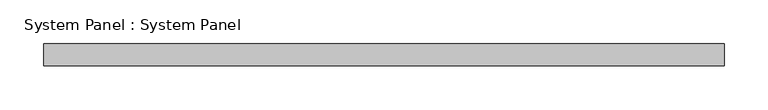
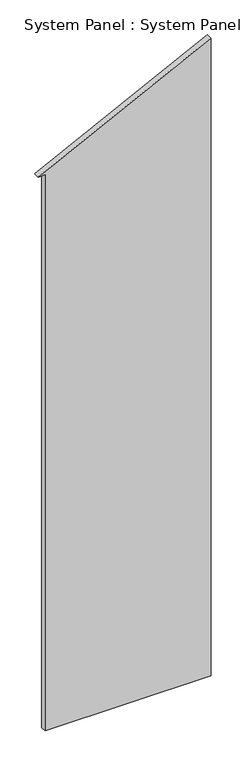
"""IFC4 building model written with IfcOpenShell, lengths in millimetres: plate geometry, System Panel : System Panel."""

import ifcopenshell
import ifcopenshell.guid

model = None  # the IFC model being written
_history = None  # IfcOwnerHistory: only IFC2X3 demands one
_inside = {}  # id of a spatial element -> (the spatial element, [elements in it])
_under = {}  # id of a project, library or spatial element -> (it, [spatial elements below it])
_declared = {}  # id of a project -> (the project, [libraries it declares])
_typed = {}  # id of a type object -> (the type object, [elements of that type])
_made_of = {}  # id of a material, layer set ... -> (it, [elements and type objects made of it])


def new_model(schema):
    """Start an empty IFC model of exactly this schema.

    Asked for "IFC4X3", IfcOpenShell would pick the latest addendum, in which some entities
    have other attributes; the version numbers below select the first issue.
    IFC2X3 requires an IfcOwnerHistory on every rooted entity: one is made here for all.
    """
    global model, _history
    if schema == "IFC4X3":
        model = ifcopenshell.file(schema_version=(4, 3, 0, 0))
    else:
        model = ifcopenshell.file(schema=schema)
    _inside.clear()
    _under.clear()
    _declared.clear()
    _typed.clear()
    _made_of.clear()
    _history = None
    if model.schema == "IFC2X3":
        org = make("IfcOrganization", Name="unknown")
        user = make(
            "IfcPersonAndOrganization",
            ThePerson=make("IfcPerson", FamilyName="unknown"),
            TheOrganization=org,
        )
        app = make(
            "IfcApplication",
            ApplicationDeveloper=org,
            Version="unknown",
            ApplicationFullName="unknown",
            ApplicationIdentifier="unknown",
        )
        _history = make(
            "IfcOwnerHistory",
            OwningUser=user,
            OwningApplication=app,
            ChangeAction="ADDED",
            CreationDate=0,
        )
    return model


def make(cls, **values):
    """One entity of the class cls with the attributes given. An attribute that is None is left unset."""
    return model.create_entity(
        cls, **{name: value for name, value in values.items() if value is not None}
    )


def rooted(cls, **values):
    """An entity with a GlobalId (a new one), such as an element, a storey or a relation."""
    return make(cls, GlobalId=ifcopenshell.guid.new(), OwnerHistory=_history, **values)


def si_unit(unit_type, name, prefix=None):
    """IfcSIUnit, for example si_unit("LENGTHUNIT", "METRE", prefix="MILLI")."""
    return make("IfcSIUnit", UnitType=unit_type, Prefix=prefix, Name=name)


def assignment(units):
    """IfcUnitAssignment: the units of a project."""
    return None if units is None else make("IfcUnitAssignment", Units=units)


def point(xyz):
    """IfcCartesianPoint."""
    return None if xyz is None else make("IfcCartesianPoint", Coordinates=xyz)


def direction(xyz):
    """IfcDirection."""
    return None if xyz is None else make("IfcDirection", DirectionRatios=xyz)


def frame(location, z_axis=None, x_axis=None):
    """IfcAxis2Placement3D, a coordinate frame: its origin and axes. An axis left out is left unset."""
    return make(
        "IfcAxis2Placement3D",
        Location=point(location),
        Axis=direction(z_axis),
        RefDirection=direction(x_axis),
    )


def origin():
    """The frame at (0, 0, 0) with its axes left unset."""
    return frame((0.0, 0.0, 0.0))


def place(relative_to, where):
    """IfcLocalPlacement: puts the frame where relative to a parent placement (None: the world)."""
    return make(
        "IfcLocalPlacement", PlacementRelTo=relative_to, RelativePlacement=where
    )


def context(
    kind, dimensions, precision=None, world=None, true_north=None, identifier=None
):
    """IfcGeometricRepresentationContext, for example the 3D "Model" context."""
    return make(
        "IfcGeometricRepresentationContext",
        ContextIdentifier=identifier,
        ContextType=kind,
        CoordinateSpaceDimension=dimensions,
        Precision=precision,
        WorldCoordinateSystem=world,
        TrueNorth=true_north,
    )


def project(units=None, contexts=None):
    """IfcProject with its units and contexts."""
    return rooted(
        "IfcProject",
        Name="project",
        RepresentationContexts=contexts,
        UnitsInContext=assignment(units),
    )


def spatial(cls, under=None, at=None, **own):
    """A site, building, storey or space (cls), placed at a placement, below another one or the project."""
    s = rooted(cls, ObjectPlacement=at, **own)
    if under is not None:
        _under.setdefault(under.id(), (under, []))[1].append(s)
    return s


def polyline(points):
    """IfcPolyline through the points."""
    return make("IfcPolyline", Points=[point(p) for p in points])


def outline(outer, holes=None, kind="AREA"):
    """IfcArbitraryClosedProfileDef: a profile drawn as a closed curve; with holes, ...WithVoids."""
    if holes is None:
        return make("IfcArbitraryClosedProfileDef", ProfileType=kind, OuterCurve=outer)
    return make(
        "IfcArbitraryProfileDefWithVoids",
        ProfileType=kind,
        OuterCurve=outer,
        InnerCurves=holes,
    )


def extrude(swept, where, along, depth):
    """IfcExtrudedAreaSolid: the profile swept, set in the frame where, extruded along a direction by depth."""
    return make(
        "IfcExtrudedAreaSolid",
        SweptArea=swept,
        Position=where,
        ExtrudedDirection=direction(along),
        Depth=depth,
    )


def shape(context_of_items, identifier, shape_type, items):
    """IfcShapeRepresentation: the items that make up one representation, for example the "Body"."""
    return make(
        "IfcShapeRepresentation",
        ContextOfItems=context_of_items,
        RepresentationIdentifier=identifier,
        RepresentationType=shape_type,
        Items=items,
    )


def source(mapping_origin, context_of_items, identifier, shape_type, items):
    """IfcRepresentationMap: a shape defined once, which mapped items show again and again."""
    return make(
        "IfcRepresentationMap",
        MappingOrigin=mapping_origin,
        MappedRepresentation=shape(context_of_items, identifier, shape_type, items),
    )


def transform(
    local_origin,
    x_axis=None,
    y_axis=None,
    z_axis=None,
    scale=None,
    scale2=None,
    scale3=None,
    uniform=True,
):
    """IfcCartesianTransformationOperator3D, or its non-uniform kind. x_axis, y_axis, z_axis: its Axis1, 2, 3."""
    if uniform:
        return make(
            "IfcCartesianTransformationOperator3D",
            Axis1=direction(x_axis),
            Axis2=direction(y_axis),
            LocalOrigin=point(local_origin),
            Scale=scale,
            Axis3=direction(z_axis),
        )
    return make(
        "IfcCartesianTransformationOperator3DnonUniform",
        Axis1=direction(x_axis),
        Axis2=direction(y_axis),
        LocalOrigin=point(local_origin),
        Scale=scale,
        Axis3=direction(z_axis),
        Scale2=scale2,
        Scale3=scale3,
    )


def mapped(mapping_source, mapping_target):
    """IfcMappedItem: shows the shape of a source again, moved by a transform."""
    return make(
        "IfcMappedItem", MappingSource=mapping_source, MappingTarget=mapping_target
    )


def made_of(thing, what):
    """Note that an element or type object is made of a material, layer set ...; save() writes the relation."""
    if what is not None:
        _made_of.setdefault(what.id(), (what, []))[1].append(thing)
    return thing


def element(
    cls,
    number,
    at=None,
    inside=None,
    cuts=None,
    type_object=None,
    material=None,
    context=None,
    identifier="Body",
    shape_type=None,
    held_by="IfcProductDefinitionShape",
    body=None,
    shapes=None,
    **own,
):
    """One element of the class cls, such as IfcWall. Its Tag is "e" and its number.

    at: its placement. inside: the storey or other place that contains it. cuts: it is an
    opening in that element (IfcRelVoidsElement). A single representation is given by context,
    identifier, shape_type and body (its items); several are given by shapes. held_by: the class
    of the entity that holds the representations. save() writes the other relations.
    """
    e = rooted(cls, Tag="e%d" % number, ObjectPlacement=at, **own)
    if body is not None:
        shapes = [shape(context, identifier, shape_type, body)]
    if shapes is not None:
        e.Representation = make(held_by, Representations=shapes)
    if inside is not None:
        _inside.setdefault(inside.id(), (inside, []))[1].append(e)
    if cuts is not None:
        rooted(
            "IfcRelVoidsElement", RelatingBuildingElement=cuts, RelatedOpeningElement=e
        )
    if type_object is not None:
        _typed.setdefault(type_object.id(), (type_object, []))[1].append(e)
    return made_of(e, material)


def aggregate(whole, parts):
    """IfcRelAggregates: a whole, such as a stair, and the parts it consists of."""
    return rooted("IfcRelAggregates", RelatingObject=whole, RelatedObjects=parts)


def save(model, path):
    """Write the relations noted so far, then the file.

    IfcRelAggregates (storeys below a building ...), IfcRelContainedInSpatialStructure (elements
    in a storey), IfcRelDefinesByType, IfcRelAssociatesMaterial and IfcRelDeclares: one each for
    every whole, place, type object, material and project.
    """
    for whole, parts in _under.values():
        aggregate(whole, parts)
    for where, things in _inside.values():
        rooted(
            "IfcRelContainedInSpatialStructure",
            RelatedElements=things,
            RelatingStructure=where,
        )
    for kind, things in _typed.values():
        rooted("IfcRelDefinesByType", RelatedObjects=things, RelatingType=kind)
    for what, things in _made_of.values():
        rooted("IfcRelAssociatesMaterial", RelatedObjects=things, RelatingMaterial=what)
    for by, libraries in _declared.values():
        rooted("IfcRelDeclares", RelatingContext=by, RelatedDefinitions=libraries)
    model.write(path)


def system_panel_system_panel_5840f3b9(model_context):
    return source(origin(), model_context, "Body", "SweptSolid", [
        extrude(outline(polyline([(0.0, 390.525), (3044.825, 390.525), (2654.3, -390.525), (2654.3, -358.775), (0.0, -358.775), (0.0, 390.525)])), frame((0.0, 19.05, 0.0), z_axis=(0.0, 1.0, 0.0), x_axis=(0.0, 0.0, 1.0)), (0.0, 0.0, 1.0), 25.4),
    ])


if __name__ == "__main__":
    model = new_model("IFC4")
    model_context = context("Model", 3, world=origin())
    ifc_project = project(units=[si_unit("LENGTHUNIT", "METRE", prefix="MILLI")], contexts=[model_context])
    site = spatial("IfcSite", under=ifc_project)
    building = spatial("IfcBuilding", under=site)
    placement = place(None, origin())
    system_panel_system_panel_shape = system_panel_system_panel_5840f3b9(model_context)
    element("IfcPlate", 1, ObjectType="System Panel : System Panel", at=placement, inside=building, context=model_context, shape_type="MappedRepresentation", body=[
        mapped(system_panel_system_panel_shape, transform((0.0, 0.0, 0.0), x_axis=(1.0, 0.0, 0.0), y_axis=(0.0, 1.0, 0.0), z_axis=(0.0, 0.0, 1.0))),
    ])
    save(model, "model.ifc")
